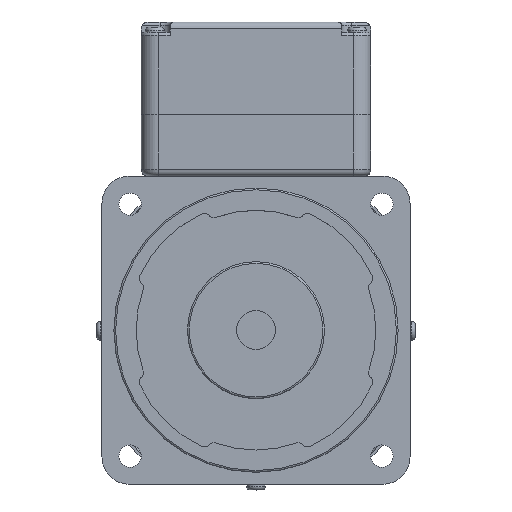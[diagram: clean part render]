
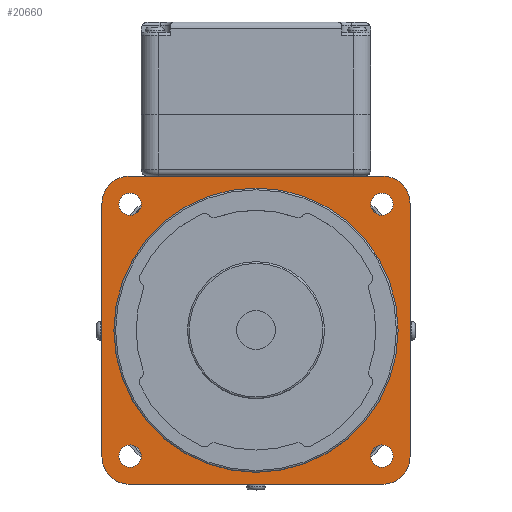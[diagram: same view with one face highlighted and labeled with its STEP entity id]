
A CAD part, top view. The second image highlights one B-rep face of the part: STEP entity #20660.
In plain terms, the highlighted planar face has unit normal (0, 0, 1).
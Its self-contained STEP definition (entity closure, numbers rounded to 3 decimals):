
#13183=CARTESIAN_POINT('',(-45.0,37.,120.));
#13184=VERTEX_POINT('',#13183);
#13191=CARTESIAN_POINT('',(-37.0,45.0,120.));
#13192=VERTEX_POINT('',#13191);
#13193=CARTESIAN_POINT('',(-37.0,37.0,120.));
#13194=DIRECTION('',(0.0,0.0,-1.0));
#13195=DIRECTION('',(0.0,-1.0,0.0));
#13196=AXIS2_PLACEMENT_3D('',#13193,#13194,#13195);
#13197=CIRCLE('',#13196,8.);
#13198=EDGE_CURVE('',#13184,#13192,#13197,.T.);
#13250=CARTESIAN_POINT('',(-33.52,36.77,120.));
#13251=VERTEX_POINT('',#13250);
#13252=CARTESIAN_POINT('',(-36.77,36.77,120.));
#13253=DIRECTION('',(0.0,0.0,-1.0));
#13254=DIRECTION('',(-1.0,0.0,0.0));
#13255=AXIS2_PLACEMENT_3D('',#13252,#13253,#13254);
#13256=CIRCLE('',#13255,3.25);
#13257=EDGE_CURVE('',#13251,#13251,#13256,.T.);
#13267=CARTESIAN_POINT('',(-45.0,-37.0,120.));
#13268=VERTEX_POINT('',#13267);
#13269=CARTESIAN_POINT('',(-45.0,-37.0,120.));
#13270=DIRECTION('',(0.0,1.0,0.0));
#13271=VECTOR('',#13270,74.0);
#13272=LINE('',#13269,#13271);
#13273=EDGE_CURVE('',#13268,#13184,#13272,.T.);
#13315=CARTESIAN_POINT('',(-37.,-45.0,120.));
#13316=VERTEX_POINT('',#13315);
#13323=CARTESIAN_POINT('',(-37.0,-37.0,120.));
#13324=DIRECTION('',(0.0,0.0,-1.0));
#13325=DIRECTION('',(1.0,0.0,0.0));
#13326=AXIS2_PLACEMENT_3D('',#13323,#13324,#13325);
#13327=CIRCLE('',#13326,8.);
#13328=EDGE_CURVE('',#13316,#13268,#13327,.T.);
#13342=CARTESIAN_POINT('',(-33.52,-36.77,120.));
#13343=VERTEX_POINT('',#13342);
#13344=CARTESIAN_POINT('',(-36.77,-36.77,120.));
#13345=DIRECTION('',(0.0,0.0,-1.0));
#13346=DIRECTION('',(-1.0,0.0,0.0));
#13347=AXIS2_PLACEMENT_3D('',#13344,#13345,#13346);
#13348=CIRCLE('',#13347,3.25);
#13349=EDGE_CURVE('',#13343,#13343,#13348,.T.);
#13359=CARTESIAN_POINT('',(37.0,-45.0,120.));
#13360=VERTEX_POINT('',#13359);
#13361=CARTESIAN_POINT('',(37.0,-45.0,120.));
#13362=DIRECTION('',(-1.0,0.0,0.0));
#13363=VECTOR('',#13362,74.0);
#13364=LINE('',#13361,#13363);
#13365=EDGE_CURVE('',#13360,#13316,#13364,.T.);
#13407=CARTESIAN_POINT('',(45.0,-37.,120.));
#13408=VERTEX_POINT('',#13407);
#13415=CARTESIAN_POINT('',(37.0,-37.0,120.));
#13416=DIRECTION('',(0.0,0.0,-1.0));
#13417=DIRECTION('',(0.0,1.0,0.0));
#13418=AXIS2_PLACEMENT_3D('',#13415,#13416,#13417);
#13419=CIRCLE('',#13418,8.);
#13420=EDGE_CURVE('',#13408,#13360,#13419,.T.);
#13434=CARTESIAN_POINT('',(40.02,-36.77,120.));
#13435=VERTEX_POINT('',#13434);
#13436=CARTESIAN_POINT('',(36.77,-36.77,120.));
#13437=DIRECTION('',(0.0,0.0,-1.0));
#13438=DIRECTION('',(-1.0,0.0,0.0));
#13439=AXIS2_PLACEMENT_3D('',#13436,#13437,#13438);
#13440=CIRCLE('',#13439,3.25);
#13441=EDGE_CURVE('',#13435,#13435,#13440,.T.);
#13734=CARTESIAN_POINT('',(45.0,37.0,120.));
#13735=VERTEX_POINT('',#13734);
#13736=CARTESIAN_POINT('',(45.0,37.0,120.));
#13737=DIRECTION('',(0.0,-1.0,0.0));
#13738=VECTOR('',#13737,74.0);
#13739=LINE('',#13736,#13738);
#13740=EDGE_CURVE('',#13735,#13408,#13739,.T.);
#13780=CARTESIAN_POINT('',(37.,45.0,120.));
#13781=VERTEX_POINT('',#13780);
#13788=CARTESIAN_POINT('',(37.0,37.0,120.));
#13789=DIRECTION('',(0.0,0.0,-1.0));
#13790=DIRECTION('',(-1.0,0.0,0.0));
#13791=AXIS2_PLACEMENT_3D('',#13788,#13789,#13790);
#13792=CIRCLE('',#13791,8.);
#13793=EDGE_CURVE('',#13781,#13735,#13792,.T.);
#13821=CARTESIAN_POINT('',(-37.0,45.0,120.));
#13822=DIRECTION('',(1.0,0.0,0.0));
#13823=VECTOR('',#13822,74.0);
#13824=LINE('',#13821,#13823);
#13825=EDGE_CURVE('',#13192,#13781,#13824,.T.);
#13947=CARTESIAN_POINT('',(40.02,36.77,120.));
#13948=VERTEX_POINT('',#13947);
#13949=CARTESIAN_POINT('',(36.77,36.77,120.));
#13950=DIRECTION('',(0.0,0.0,-1.0));
#13951=DIRECTION('',(-1.0,0.0,0.0));
#13952=AXIS2_PLACEMENT_3D('',#13949,#13950,#13951);
#13953=CIRCLE('',#13952,3.25);
#13954=EDGE_CURVE('',#13948,#13948,#13953,.T.);
#20607=CARTESIAN_POINT('',(41.5,0.,120.));
#20608=VERTEX_POINT('',#20607);
#20609=CARTESIAN_POINT('',(0.,0.,120.));
#20610=DIRECTION('',(0.0,0.0,-1.0));
#20611=DIRECTION('',(-1.0,0.0,0.0));
#20612=AXIS2_PLACEMENT_3D('',#20609,#20610,#20611);
#20613=CIRCLE('',#20612,41.5);
#20614=EDGE_CURVE('',#20608,#20608,#20613,.T.);
#20630=CARTESIAN_POINT('',(0.,0.,120.));
#20631=DIRECTION('',(0.0,0.0,-1.0));
#20632=DIRECTION('',(-1.0,0.0,0.0));
#20633=AXIS2_PLACEMENT_3D('',#20630,#20631,#20632);
#20634=PLANE('',#20633);
#20635=ORIENTED_EDGE('',*,*,#13740,.F.);
#20636=ORIENTED_EDGE('',*,*,#13793,.F.);
#20637=ORIENTED_EDGE('',*,*,#13825,.F.);
#20638=ORIENTED_EDGE('',*,*,#13198,.F.);
#20639=ORIENTED_EDGE('',*,*,#13273,.F.);
#20640=ORIENTED_EDGE('',*,*,#13328,.F.);
#20641=ORIENTED_EDGE('',*,*,#13365,.F.);
#20642=ORIENTED_EDGE('',*,*,#13420,.F.);
#20643=EDGE_LOOP('',(#20635,#20636,#20637,#20638,#20639,#20640,#20641,#20642));
#20644=FACE_OUTER_BOUND('',#20643,.T.);
#20645=ORIENTED_EDGE('',*,*,#20614,.T.);
#20646=EDGE_LOOP('',(#20645));
#20647=FACE_BOUND('',#20646,.T.);
#20648=ORIENTED_EDGE('',*,*,#13257,.T.);
#20649=EDGE_LOOP('',(#20648));
#20650=FACE_BOUND('',#20649,.T.);
#20651=ORIENTED_EDGE('',*,*,#13349,.T.);
#20652=EDGE_LOOP('',(#20651));
#20653=FACE_BOUND('',#20652,.T.);
#20654=ORIENTED_EDGE('',*,*,#13441,.T.);
#20655=EDGE_LOOP('',(#20654));
#20656=FACE_BOUND('',#20655,.T.);
#20657=ORIENTED_EDGE('',*,*,#13954,.T.);
#20658=EDGE_LOOP('',(#20657));
#20659=FACE_BOUND('',#20658,.T.);
#20660=ADVANCED_FACE('',(#20644,#20647,#20650,#20653,#20656,#20659),#20634,.F.);
